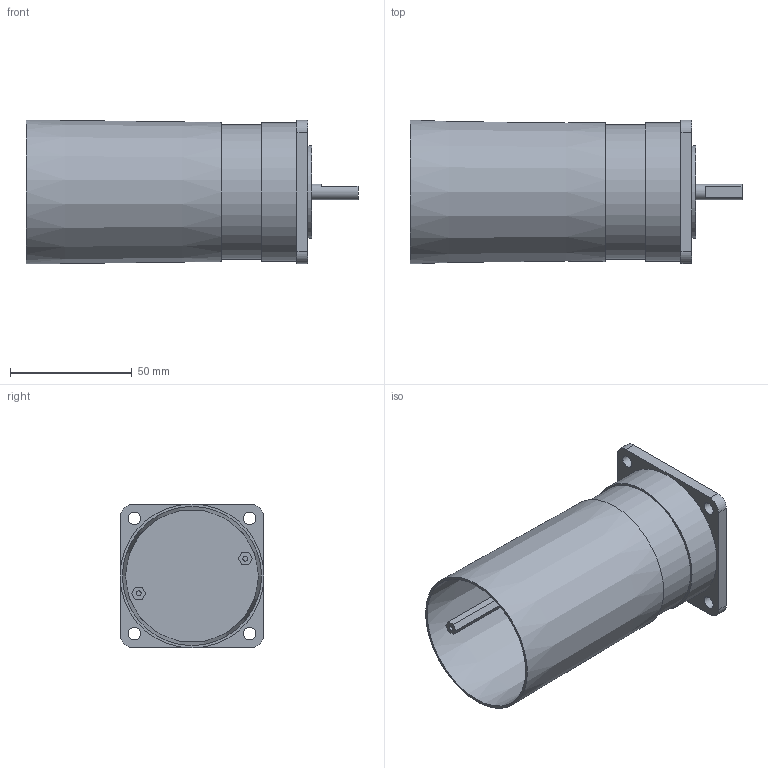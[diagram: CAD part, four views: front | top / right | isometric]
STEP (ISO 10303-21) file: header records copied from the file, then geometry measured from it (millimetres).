
FILE_DESCRIPTION( ( 'Unknown' ), '1' );
FILE_NAME( 'K:/JVL/MACxxx/MAC50_95_140_141/CAD internet tegninger/STEP/STP/MAC050-A3.stp', 'Unknown', ( 'Unknown' ), ( 'Unknown' ), 'PSStep 11.0', 'Unknown', ' ' );
FILE_SCHEMA( ( 'AUTOMOTIVE_DESIGN { 1 0 10303 214 1 1 1 1 }' ) );
Length unit declared in the file: millimetre
Products named in the file (1): 1
Bounding box: 136.07 x 59 x 59 mm (x, y, z)
Volume: 124395 mm3; surface area: 44829.7 mm2
Topology: 1 solids, 1 shells, 52 faces, 118 edges, 81 vertices
Faces by surface type: plane 33, cylinder 17, cone 2
Full cylindrical faces by diameter (mm): 2.013 x2, 5.2 x4, 6.35 x1, 8.4 x1, 12.6 x1, 18 x1, 38.1 x1, 55 x1, 56.7 x1
Entity records: 1778 total; most frequent: DIRECTION 240, CARTESIAN_POINT 221, ORIENTED_EDGE 190, EDGE_CURVE 95, AXIS2_PLACEMENT_3D 92, EDGE_LOOP 88, VERTEX_POINT 73, FACE_OUTER_BOUND 65
